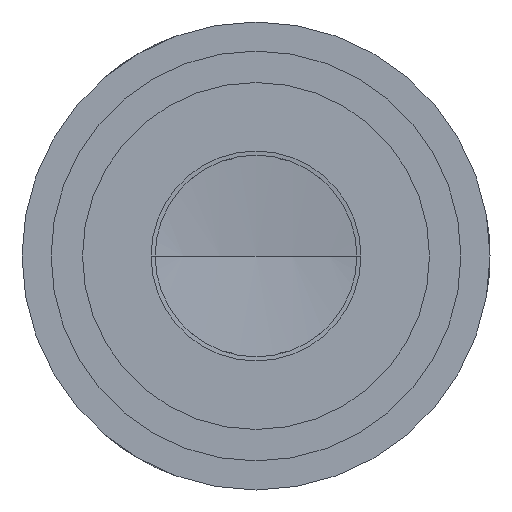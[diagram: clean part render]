
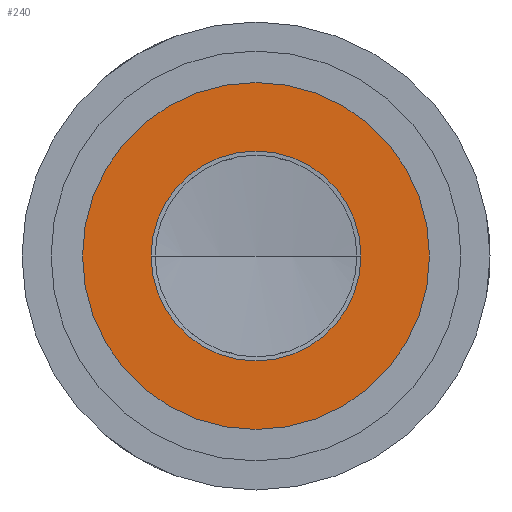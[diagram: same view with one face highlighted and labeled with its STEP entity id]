
A CAD part, front view. The second image highlights one B-rep face of the part: STEP entity #240.
In plain terms, the highlighted planar face has unit normal (0, -1, 0).
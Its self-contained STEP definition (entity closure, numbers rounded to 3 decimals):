
#34 = DIRECTION ( 'NONE',  ( 0., 0., 1. ) ) ;
#47 = DIRECTION ( 'NONE',  ( 0., 0., 1. ) ) ;
#121 = ORIENTED_EDGE ( 'NONE', *, *, #933, .T. ) ;
#122 = DIRECTION ( 'NONE',  ( 0., 0., -1. ) ) ;
#166 = CARTESIAN_POINT ( 'NONE',  ( -6.5, -119.41, 0. ) ) ;
#183 = CARTESIAN_POINT ( 'NONE',  ( 0., -119.41, 0. ) ) ;
#232 = VERTEX_POINT ( 'NONE', #1413 ) ;
#240 = ADVANCED_FACE ( 'NONE', ( #1940, #1958 ), #366, .T. ) ;
#366 = PLANE ( 'NONE',  #1952 ) ;
#417 = EDGE_LOOP ( 'NONE', ( #887, #861 ) ) ;
#538 = VERTEX_POINT ( 'NONE', #1129 ) ;
#659 = EDGE_CURVE ( 'NONE', #1770, #813, #1901, .T. ) ;
#682 = EDGE_CURVE ( 'NONE', #813, #1770, #1949, .T. ) ;
#691 = EDGE_CURVE ( 'NONE', #232, #538, #728, .T. ) ;
#701 = DIRECTION ( 'NONE',  ( 0., 1., 0. ) ) ;
#728 = CIRCLE ( 'NONE', #1412, 6.5 ) ;
#766 = CARTESIAN_POINT ( 'NONE',  ( 0., -119.41, 0. ) ) ;
#813 = VERTEX_POINT ( 'NONE', #1995 ) ;
#859 = CARTESIAN_POINT ( 'NONE',  ( 0., -119.41, 0. ) ) ;
#861 = ORIENTED_EDGE ( 'NONE', *, *, #659, .F. ) ;
#877 = CARTESIAN_POINT ( 'NONE',  ( 0., -119.41, 0. ) ) ;
#887 = ORIENTED_EDGE ( 'NONE', *, *, #682, .F. ) ;
#933 = EDGE_CURVE ( 'NONE', #538, #232, #1165, .T. ) ;
#949 = CARTESIAN_POINT ( 'NONE',  ( 0., -119.41, -11.5 ) ) ;
#993 = ORIENTED_EDGE ( 'NONE', *, *, #691, .T. ) ;
#1018 = DIRECTION ( 'NONE',  ( 0., 0., 1. ) ) ;
#1129 = CARTESIAN_POINT ( 'NONE',  ( 0., -119.41, -6.5 ) ) ;
#1165 = CIRCLE ( 'NONE', #1252, 6.5 ) ;
#1252 = AXIS2_PLACEMENT_3D ( 'NONE', #859, #1921, #1018 ) ;
#1412 = AXIS2_PLACEMENT_3D ( 'NONE', #877, #1912, #47 ) ;
#1413 = CARTESIAN_POINT ( 'NONE',  ( 0., -119.41, 6.5 ) ) ;
#1434 = AXIS2_PLACEMENT_3D ( 'NONE', #766, #1755, #34 ) ;
#1466 = AXIS2_PLACEMENT_3D ( 'NONE', #183, #701, #1552 ) ;
#1552 = DIRECTION ( 'NONE',  ( 0., 0., 1. ) ) ;
#1718 = DIRECTION ( 'NONE',  ( 0., -1., 0. ) ) ;
#1755 = DIRECTION ( 'NONE',  ( 0., 1., 0. ) ) ;
#1770 = VERTEX_POINT ( 'NONE', #949 ) ;
#1901 = CIRCLE ( 'NONE', #1466, 11.5 ) ;
#1912 = DIRECTION ( 'NONE',  ( 0., 1., 0. ) ) ;
#1921 = DIRECTION ( 'NONE',  ( 0., 1., 0. ) ) ;
#1940 = FACE_BOUND ( 'NONE', #1953, .T. ) ;
#1949 = CIRCLE ( 'NONE', #1434, 11.5 ) ;
#1952 = AXIS2_PLACEMENT_3D ( 'NONE', #166, #1718, #122 ) ;
#1953 = EDGE_LOOP ( 'NONE', ( #993, #121 ) ) ;
#1958 = FACE_OUTER_BOUND ( 'NONE', #417, .T. ) ;
#1995 = CARTESIAN_POINT ( 'NONE',  ( 0., -119.41, 11.5 ) ) ;
